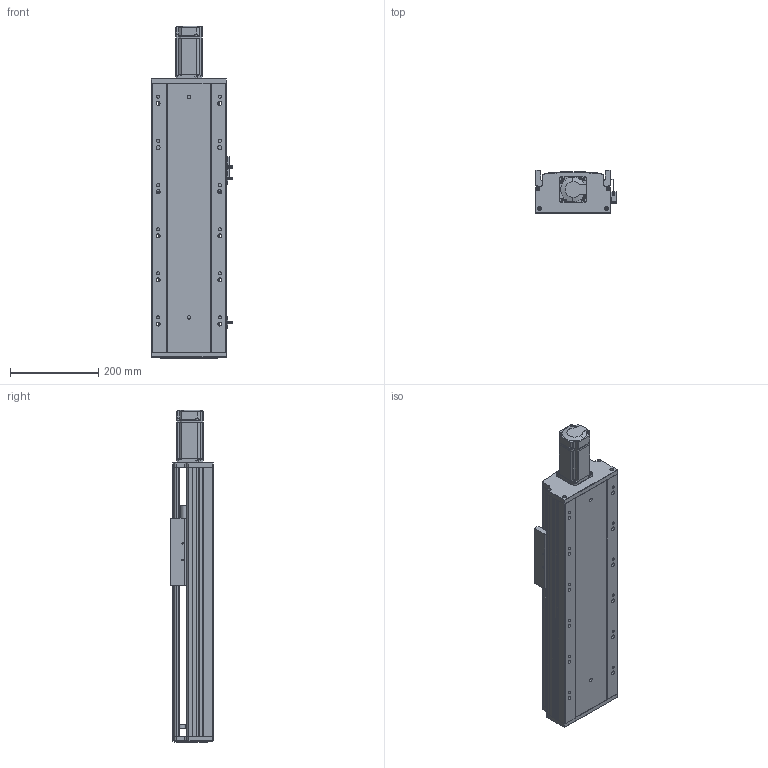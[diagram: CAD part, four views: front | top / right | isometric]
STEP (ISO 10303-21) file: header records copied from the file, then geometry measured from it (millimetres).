
FILE_DESCRIPTION (( 'STEP AP203' ), '1' );
FILE_NAME ('RY170-L2020-300-MK.SLDASM_300.step', '2021-02-20T03:50:12', ( '盈信电脑' ), ( '东莞市道滘镇水果街19号' ), 'SwSTEP 2.0', 'SolidWorks 2012', '' );
FILE_SCHEMA (( 'CONFIG_CONTROL_DESIGN' ));
Products named in the file (12): 15; RY170綴裔啣; 侂狟400W侜督萇儂; RY170外置感应片(200共用）; 覜茼ん672; RY170-L2020-300-MK.SLDASM_300; 滅袉蝶18-10; 滅袉蝶18-28; RY170ヶ醱裔啣; RY170-300倰第菁釱-MK; RY170臏賑輸20佪裝蹟譫; RY170-300倰第裔啣-MK
Assembly tree (13 placements, depth 3):
  RY170-L2020-300-MK.SLDASM_300
    RY170-300倰第菁釱-MK
    RY170-300倰第裔啣-MK
    RY170臏賑輸20佪裝蹟譫
    侂狟400W侜督萇儂
      15
    RY170綴裔啣
    覜茼ん672  x3
    RY170外置感应片(200共用）
    RY170ヶ醱裔啣
    滅袉蝶18-28
    滅袉蝶18-10
Bounding box: 183.7 x 97 x 752.5 mm (x, y, z)
Volume: 3787733.4 mm3; surface area: 1139675 mm2
Topology: 12 solids, 12 shells, 2072 faces, 5904 edges, 3834 vertices
Faces by surface type: plane 1166, cylinder 734, cone 143, bspline 29
Entity records: 65361 total; most frequent: CARTESIAN_POINT 14301, ORIENTED_EDGE 10660, DIRECTION 10105, EDGE_CURVE 5330, VERTEX_POINT 3514, LINE 3489, VECTOR 3489, AXIS2_PLACEMENT_3D 3308
